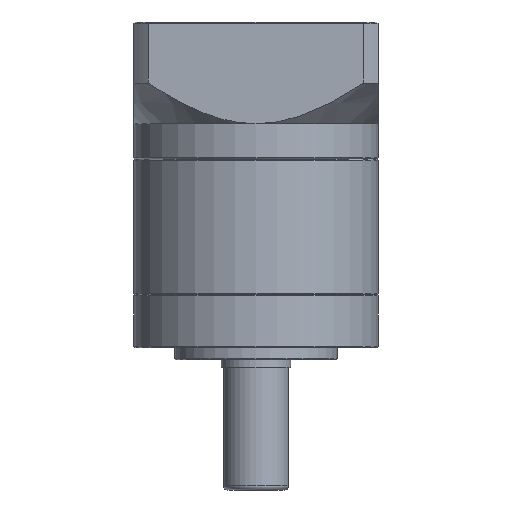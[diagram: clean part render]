
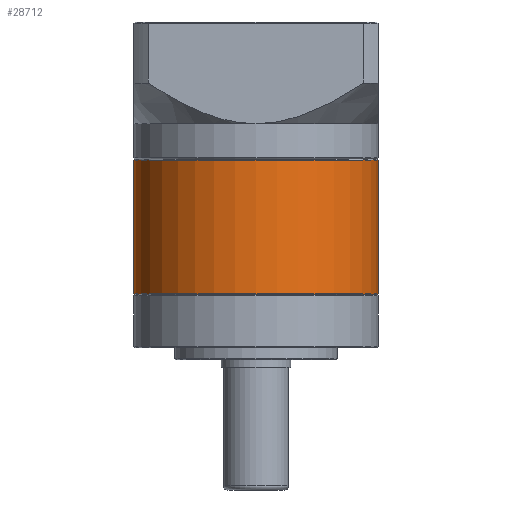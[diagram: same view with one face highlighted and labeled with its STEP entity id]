
A CAD part, front view. The second image highlights one B-rep face of the part: STEP entity #28712.
In plain terms, the highlighted cylindrical face has radius 30 mm (diameter 60 mm), a partial arc.
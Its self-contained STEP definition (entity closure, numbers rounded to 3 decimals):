
#3273 = CARTESIAN_POINT ( 'NONE',  ( -66.698, 32.598, -29.762 ) ) ;
#8443 = CARTESIAN_POINT ( 'NONE',  ( -6.698, 32.598, -29.762 ) ) ;
#18110 = VERTEX_POINT ( 'NONE', #8443 ) ;
#28479 = CARTESIAN_POINT ( 'NONE',  ( -6.698, 32.598, -62.562 ) ) ;
#28712 = ADVANCED_FACE ( 'NONE', ( #69141 ), #48260, .T. ) ;
#29199 = EDGE_CURVE ( 'NONE', #18110, #36747, #67571, .T. ) ;
#34832 = CIRCLE ( 'NONE', #112998, 30. ) ;
#36747 = VERTEX_POINT ( 'NONE', #28479 ) ;
#38763 = DIRECTION ( 'NONE',  ( 0., 0., -1. ) ) ;
#42136 = ORIENTED_EDGE ( 'NONE', *, *, #53068, .T. ) ;
#42732 = CARTESIAN_POINT ( 'NONE',  ( -66.698, 32.598, -29.512 ) ) ;
#42780 = CIRCLE ( 'NONE', #91812, 30. ) ;
#48260 = CYLINDRICAL_SURFACE ( 'NONE', #54706, 30. ) ;
#48662 = CARTESIAN_POINT ( 'NONE',  ( -6.698, 32.598, -29.512 ) ) ;
#52441 = EDGE_LOOP ( 'NONE', ( #82168, #42136, #108201, #100542 ) ) ;
#53068 = EDGE_CURVE ( 'NONE', #18110, #75190, #34832, .T. ) ;
#54706 = AXIS2_PLACEMENT_3D ( 'NONE', #92008, #100907, #59864 ) ;
#59864 = DIRECTION ( 'NONE',  ( -1., 0., 0. ) ) ;
#66536 = DIRECTION ( 'NONE',  ( 0., 0., 1. ) ) ;
#67571 = LINE ( 'NONE', #48662, #95260 ) ;
#69141 = FACE_OUTER_BOUND ( 'NONE', #52441, .T. ) ;
#73939 = CARTESIAN_POINT ( 'NONE',  ( -36.698, 32.598, -62.562 ) ) ;
#74564 = LINE ( 'NONE', #42732, #87057 ) ;
#75190 = VERTEX_POINT ( 'NONE', #3273 ) ;
#82168 = ORIENTED_EDGE ( 'NONE', *, *, #29199, .F. ) ;
#82599 = DIRECTION ( 'NONE',  ( 1., 0., 0. ) ) ;
#87057 = VECTOR ( 'NONE', #89391, 1000. ) ;
#89143 = EDGE_CURVE ( 'NONE', #75190, #97328, #74564, .T. ) ;
#89391 = DIRECTION ( 'NONE',  ( 0., 0., -1. ) ) ;
#91812 = AXIS2_PLACEMENT_3D ( 'NONE', #73939, #66536, #92477 ) ;
#92008 = CARTESIAN_POINT ( 'NONE',  ( -36.698, 32.598, -29.512 ) ) ;
#92477 = DIRECTION ( 'NONE',  ( 1., 0., 0. ) ) ;
#92573 = CARTESIAN_POINT ( 'NONE',  ( -36.698, 32.598, -29.762 ) ) ;
#95260 = VECTOR ( 'NONE', #99773, 1000. ) ;
#97328 = VERTEX_POINT ( 'NONE', #97371 ) ;
#97371 = CARTESIAN_POINT ( 'NONE',  ( -66.698, 32.598, -62.562 ) ) ;
#99773 = DIRECTION ( 'NONE',  ( 0., 0., -1. ) ) ;
#100542 = ORIENTED_EDGE ( 'NONE', *, *, #108385, .T. ) ;
#100907 = DIRECTION ( 'NONE',  ( 0., 0., -1. ) ) ;
#108201 = ORIENTED_EDGE ( 'NONE', *, *, #89143, .T. ) ;
#108385 = EDGE_CURVE ( 'NONE', #97328, #36747, #42780, .T. ) ;
#112998 = AXIS2_PLACEMENT_3D ( 'NONE', #92573, #38763, #82599 ) ;
